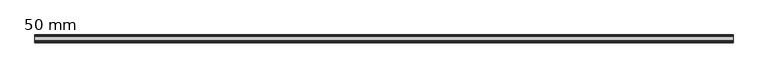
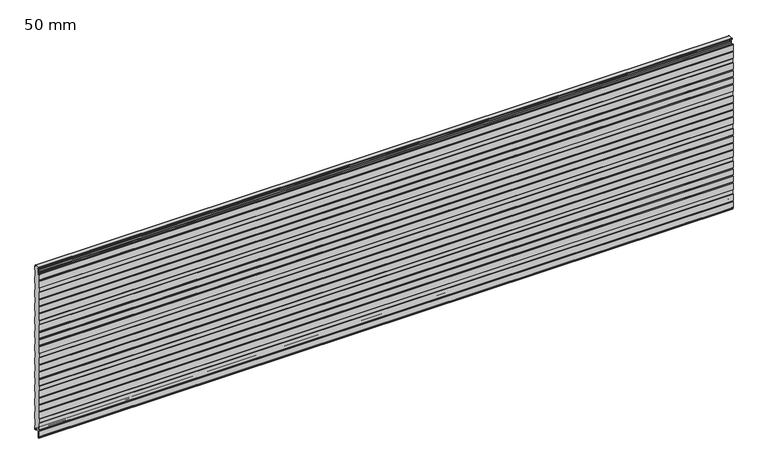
"""IFC4 building model written with IfcOpenShell, lengths in millimetres: plate geometry, HIANSA PANEL - H20.F02.002-PANELES DE FACHADA HORIZONTAL - PANEL PERFILADO - Panel de Muro Cortina : 50 mm."""

from ifc_helpers import new_model, si_unit, frame, origin, place, context, project, spatial, polyline, circle_curve, source, transform, mapped, element, save
from ifc_brep_helpers import plane_surface, cylinder_surface, revolved_surface, advanced_brep


def plate_50_mm_d58d4b2a(model_context):
    return source(origin(), model_context, "Body", "AdvancedBrep", [
        advanced_brep(
        [(-2200.0, -48.8752798, 1088.9050598), (-2200.0, -47.5170803, 1089.9655099), (-2200.0, -44.8776596, 1089.9655099), (-2200.0, -44.8776596, 1080.8), (-2200.0, -43.3776596, 1079.3), (-2200.0, -39.1276596, 1079.3), (-2200.0, -37.6276596, 1080.8), (-2200.0, -37.6276596, 1082.4013031), (-2200.0, -36.9880243, 1083.6300312), (-2200.0, -30.9305067, 1087.8715506), (-2200.0, -30.0776596, 1089.5098547), (-2200.0, -30.0776596, 1098.6062275), (-2200.0, -29.3889845, 1099.7990478), (-2200.0, -29.3889845, 1100.7990478), (-2200.0, -30.0776596, 1101.9918681), (-2200.0, -30.0776596, 1111.0896684), (-2200.0, -30.9305067, 1112.7279725), (-2200.0, -36.9880243, 1116.969492), (-2200.0, -37.6276596, 1118.19822), (-2200.0, -37.6276596, 1121.5805697), (-2200.0, -36.1276596, 1123.0805697), (-2200.0, -7.7494039, 1123.0810465), (-2200.0, -6.7486887, 1122.0803313), (-2200.0, -6.7486887, 1115.9337883), (-2200.0, -4.7472517, 1113.9323514), (-2200.0, -1.4941037, 1113.9323514), (-2200.0, -0.5, 1112.9382477), (-2200.0, -0.5, 1088.0627766), (-2200.0, -1.5005169, 1085.0504228), (-2200.0, -1.5005169, 1044.8881451), (-2200.0, -0.5, 1041.8865945), (-2200.0, -0.5, 997.0519734), (-2200.0, -1.5005169, 994.0504228), (-2200.0, -1.5005169, 953.8881451), (-2200.0, -0.5, 950.8865945), (-2200.0, -0.5, 906.0519734), (-2200.0, -1.5005169, 903.0504228), (-2200.0, -1.5005169, 862.8881451), (-2200.0, -0.5, 859.8865945), (-2200.0, -0.5, 815.0519734), (-2200.0, -1.5005169, 812.0504228), (-2200.0, -1.5005169, 771.8881451), (-2200.0, -0.5, 768.8865945), (-2200.0, -0.5, 724.0519734), (-2200.0, -1.5005169, 721.0504228), (-2200.0, -1.5005169, 680.8881451), (-2200.0, -0.5, 677.8865945), (-2200.0, -0.5, 633.0519734), (-2200.0, -1.5005169, 630.0504228), (-2200.0, -1.5005169, 589.8881451), (-2200.0, -0.5, 586.8865945), (-2200.0, -0.5, 542.0519734), (-2200.0, -1.5005169, 539.0504228), (-2200.0, -1.5005169, 498.8881451), (-2200.0, -0.5, 495.8865945), (-2200.0, -0.5, 451.0519734), (-2200.0, -1.5005169, 448.0504228), (-2200.0, -1.5005169, 407.8881451), (-2200.0, -0.5, 404.8865945), (-2200.0, -0.5, 360.0519734), (-2200.0, -1.5005169, 357.0504228), (-2200.0, -1.5005169, 316.8881451), (-2200.0, -0.5, 313.8865945), (-2200.0, -0.5, 269.0519734), (-2200.0, -1.5005169, 266.0504228), (-2200.0, -1.5005169, 225.8881451), (-2200.0, -0.5, 222.8865945), (-2200.0, -0.5, 178.0519734), (-2200.0, -1.5005169, 175.0504228), (-2200.0, -1.5005169, 134.8881451), (-2200.0, -0.5, 131.8865945), (-2200.0, -0.5, 87.0519734), (-2200.0, -1.5005169, 84.0504228), (-2200.0, -1.5005169, 43.8881451), (-2200.0, -0.5, 40.8962672), (-2200.0, -0.5, 15.9680961), (-2200.0, -1.5000258, 14.9680403), (-2200.0, -4.4999967, 14.9677262), (-2200.0, -5.5000043, 15.9677319), (-2200.0, -5.5004096, 23.5818123), (-2200.0, -7.5396439, 25.6210465), (-2200.0, -36.3470846, 25.6210465), (-2200.0, -38.8839497, 23.0841814), (-2200.0, -38.8839497, -19.2), (-2200.0, -43.6276596, -19.2), (-2200.0, -43.6276596, -10.5344901), (-2200.0, -45.1276596, -9.0344901), (-2200.0, -47.5178943, -9.0344901), (-2200.0, -48.8750825, -7.9748295), (-2200.0, -49.5, -5.4751593), (-2200.0, -49.5, 33.6239573), (-2200.0, -48.4846118, 37.6855101), (-2200.0, -49.5, 41.7470629), (-2200.0, -49.5, 84.8265935), (-2200.0, -48.5, 87.8265935), (-2200.0, -48.5, 113.1008712), (-2200.0, -49.5, 116.1008712), (-2200.0, -49.5, 159.1804017), (-2200.0, -48.4846118, 163.2419545), (-2200.0, -49.5, 167.3035073), (-2200.0, -49.5, 206.4026239), (-2200.0, -48.4846118, 210.4641767), (-2200.0, -49.5, 214.5257295), (-2200.0, -49.5, 253.6248461), (-2200.0, -48.4846118, 257.6863989), (-2200.0, -49.5, 261.7479517), (-2200.0, -49.5, 304.8274823), (-2200.0, -48.5, 307.8274823), (-2200.0, -48.5, 333.10176), (-2200.0, -49.5, 336.10176), (-2200.0, -49.5, 379.1812905), (-2200.0, -48.4846118, 383.2428433), (-2200.0, -49.5, 387.3043961), (-2200.0, -49.5, 426.4035127), (-2200.0, -48.4846118, 430.4650655), (-2200.0, -49.5, 434.5266183), (-2200.0, -49.5, 473.6257349), (-2200.0, -48.4846118, 477.6872877), (-2200.0, -49.5, 481.7488405), (-2200.0, -49.5, 524.8283711), (-2200.0, -48.5, 527.8283711), (-2200.0, -48.5, 553.1026488), (-2200.0, -49.5, 556.1026488), (-2200.0, -49.5, 599.1821793), (-2200.0, -48.4846118, 603.2437321), (-2200.0, -49.5, 607.3052849), (-2200.0, -49.5, 646.4044015), (-2200.0, -48.4846118, 650.4659543), (-2200.0, -49.5, 654.5275071), (-2200.0, -49.5, 693.6266237), (-2200.0, -48.4846118, 697.6881765), (-2200.0, -49.5, 701.7497293), (-2200.0, -49.5, 744.8292599), (-2200.0, -48.5, 747.8292599), (-2200.0, -48.5, 773.1035376), (-2200.0, -49.5, 776.1035376), (-2200.0, -49.5, 819.1830681), (-2200.0, -48.4846118, 823.2446209), (-2200.0, -49.5, 827.3061737), (-2200.0, -49.5, 866.4052903), (-2200.0, -48.4846118, 870.4668431), (-2200.0, -49.5, 874.5283959), (-2200.0, -49.5, 913.6275125), (-2200.0, -48.4846118, 917.6890653), (-2200.0, -49.5, 921.7506181), (-2200.0, -49.5, 964.8301487), (-2200.0, -48.5, 967.8301487), (-2200.0, -48.5, 993.1044264), (-2200.0, -49.5, 996.1044264), (-2200.0, -49.5, 1039.1839569), (-2200.0, -48.4846118, 1043.2455097), (-2200.0, -49.5, 1047.3070625), (-2200.0, -49.5, 1086.4061791), (2200.0, -48.8752798, 1088.9050598), (2200.0, -49.5, 1086.4061791), (2200.0, -49.5, 1047.3070625), (2200.0, -48.4846118, 1043.2455097), (2200.0, -49.5, 1039.1839569), (2200.0, -49.5, 996.1044264), (2200.0, -48.5, 993.1044264), (2200.0, -48.5, 967.8301487), (2200.0, -49.5, 964.8301487), (2200.0, -49.5, 921.7506181), (2200.0, -48.4846118, 917.6890653), (2200.0, -49.5, 913.6275125), (2200.0, -49.5, 874.5283959), (2200.0, -48.4846118, 870.4668431), (2200.0, -49.5, 866.4052903), (2200.0, -49.5, 827.3061737), (2200.0, -48.4846118, 823.2446209), (2200.0, -49.5, 819.1830681), (2200.0, -49.5, 776.1035376), (2200.0, -48.5, 773.1035376), (2200.0, -48.5, 747.8292599), (2200.0, -49.5, 744.8292599), (2200.0, -49.5, 701.7497293), (2200.0, -48.4846118, 697.6881765), (2200.0, -49.5, 693.6266237), (2200.0, -49.5, 654.5275071), (2200.0, -48.4846118, 650.4659543), (2200.0, -49.5, 646.4044015), (2200.0, -49.5, 607.3052849), (2200.0, -48.4846118, 603.2437321), (2200.0, -49.5, 599.1821793), (2200.0, -49.5, 556.1026488), (2200.0, -48.5, 553.1026488), (2200.0, -48.5, 527.8283711), (2200.0, -49.5, 524.8283711), (2200.0, -49.5, 481.7488405), (2200.0, -48.4846118, 477.6872877), (2200.0, -49.5, 473.6257349), (2200.0, -49.5, 434.5266183), (2200.0, -48.4846118, 430.4650655), (2200.0, -49.5, 426.4035127), (2200.0, -49.5, 387.3043961), (2200.0, -48.4846118, 383.2428433), (2200.0, -49.5, 379.1812905), (2200.0, -49.5, 336.10176), (2200.0, -48.5, 333.10176), (2200.0, -48.5, 307.8274823), (2200.0, -49.5, 304.8274823), (2200.0, -49.5, 261.7479517), (2200.0, -48.4846118, 257.6863989), (2200.0, -49.5, 253.6248461), (2200.0, -49.5, 214.5257295), (2200.0, -48.4846118, 210.4641767), (2200.0, -49.5, 206.4026239), (2200.0, -49.5, 167.3035073), (2200.0, -48.4846118, 163.2419545), (2200.0, -49.5, 159.1804017), (2200.0, -49.5, 116.1008712), (2200.0, -48.5, 113.1008712), (2200.0, -48.5, 87.8265935), (2200.0, -49.5, 84.8265935), (2200.0, -49.5, 41.7470629), (2200.0, -48.4846118, 37.6855101), (2200.0, -49.5, 33.6239573), (2200.0, -49.5, -5.4751593), (2200.0, -48.8750825, -7.9748295), (2200.0, -47.5178943, -9.0344901), (2200.0, -45.1276596, -9.0344901), (2200.0, -43.6276596, -10.5344901), (2200.0, -43.6276596, -19.2), (2200.0, -38.8839497, -19.2), (2200.0, -38.8839497, 23.0841814), (2200.0, -36.3470846, 25.6210465), (2200.0, -7.5396439, 25.6210465), (2200.0, -5.5004096, 23.5818123), (2200.0, -5.5004096, 15.9677319), (2200.0, -4.4999967, 14.9677262), (2200.0, -1.5000258, 14.9680403), (2200.0, -0.5, 15.9680961), (2200.0, -0.5, 40.8962672), (2200.0, -1.5005169, 43.8881451), (2200.0, -1.5005169, 84.0504228), (2200.0, -0.5, 87.0519734), (2200.0, -0.5, 131.8865945), (2200.0, -1.5005169, 134.8881451), (2200.0, -1.5005169, 175.0504228), (2200.0, -0.5, 178.0519734), (2200.0, -0.5, 222.8865945), (2200.0, -1.5005169, 225.8881451), (2200.0, -1.5005169, 266.0504228), (2200.0, -0.5, 269.0519734), (2200.0, -0.5, 313.8865945), (2200.0, -1.5005169, 316.8881451), (2200.0, -1.5005169, 357.0504228), (2200.0, -0.5, 360.0519734), (2200.0, -0.5, 404.8865945), (2200.0, -1.5005169, 407.8881451), (2200.0, -1.5005169, 448.0504228), (2200.0, -0.5, 451.0519734), (2200.0, -0.5, 495.8865945), (2200.0, -1.5005169, 498.8881451), (2200.0, -1.5005169, 539.0504228), (2200.0, -0.5, 542.0519734), (2200.0, -0.5, 586.8865945), (2200.0, -1.5005169, 589.8881451), (2200.0, -1.5005169, 630.0504228), (2200.0, -0.5, 633.0519734), (2200.0, -0.5, 677.8865945), (2200.0, -1.5005169, 680.8881451), (2200.0, -1.5005169, 721.0504228), (2200.0, -0.5, 724.0519734), (2200.0, -0.5, 768.8865945), (2200.0, -1.5005169, 771.8881451), (2200.0, -1.5005169, 812.0504228), (2200.0, -0.5, 815.0519734), (2200.0, -0.5, 859.8865945), (2200.0, -1.5005169, 862.8881451), (2200.0, -1.5005169, 903.0504228), (2200.0, -0.5, 906.0519734), (2200.0, -0.5, 950.8865945), (2200.0, -1.5005169, 953.8881451), (2200.0, -1.5005169, 994.0504228), (2200.0, -0.5, 997.0519734), (2200.0, -0.5, 1041.8865945), (2200.0, -1.5005169, 1044.8881451), (2200.0, -1.5005169, 1085.0504228), (2200.0, -0.5, 1088.0627766), (2200.0, -0.5, 1112.9382477), (2200.0, -1.4941037, 1113.9323514), (2200.0, -4.7472517, 1113.9323514), (2200.0, -6.7486887, 1115.9337883), (2200.0, -6.7486887, 1122.0803313), (2200.0, -7.7494039, 1123.0810465), (2200.0, -36.1276596, 1123.0810465), (2200.0, -37.6276596, 1121.5805697), (2200.0, -37.6276596, 1118.19822), (2200.0, -36.9880243, 1116.969492), (2200.0, -30.9305067, 1112.7279725), (2200.0, -30.0776596, 1111.0896684), (2200.0, -30.0776596, 1101.9918681), (2200.0, -29.3889845, 1100.7990478), (2200.0, -29.3889845, 1099.7990478), (2200.0, -30.0776596, 1098.6062275), (2200.0, -30.0776596, 1089.5098547), (2200.0, -30.9305067, 1087.8715506), (2200.0, -36.9880243, 1083.6300312), (2200.0, -37.6276596, 1082.4013031), (2200.0, -37.6276596, 1080.8), (2200.0, -39.1276596, 1079.3), (2200.0, -43.3776596, 1079.3), (2200.0, -44.8776596, 1080.8), (2200.0, -44.8776596, 1089.9655099), (2200.0, -47.5170803, 1089.9655099)],
        [
            (0, 1, circle_curve(frame((-2200.0, -47.5170803, 1088.5655099), z_axis=(-1.0, 0.0, 0.0), x_axis=(0.0, 0.0, 1.0)), 1.4)),
            (1, 2),
            (2, 3),
            (3, 4, circle_curve(frame((-2200.0, -43.3776596, 1080.8), z_axis=(1.0, 0.0, 0.0), x_axis=(0.0, 0.0, 1.0)), 1.5)),
            (4, 5),
            (5, 6, circle_curve(frame((-2200.0, -39.1276596, 1080.8), z_axis=(1.0, 0.0, 0.0), x_axis=(0.0, 0.0, 1.0)), 1.5)),
            (6, 7),
            (7, 8, circle_curve(frame((-2200.0, -36.1276596, 1082.4013031), z_axis=(-1.0, 0.0, 0.0), x_axis=(0.0, 0.0, 1.0)), 1.5)),
            (8, 9),
            (9, 10, circle_curve(frame((-2200.0, -32.0776596, 1089.5098547), z_axis=(1.0, 0.0, 0.0), x_axis=(0.0, 0.0, 1.0)), 2.0)),
            (10, 11),
            (11, 12),
            (12, 13, circle_curve(frame((-2200.0, -30.2550099, 1100.2990478), z_axis=(1.0, 0.0, 0.0), x_axis=(0.0, 0.0, 1.0)), 1.0)),
            (13, 14),
            (14, 15),
            (15, 16, circle_curve(frame((-2200.0, -32.0776596, 1111.0896684), z_axis=(1.0, 0.0, 0.0), x_axis=(0.0, 0.0, 1.0)), 2.0)),
            (16, 17),
            (17, 18, circle_curve(frame((-2200.0, -36.1276596, 1118.19822), z_axis=(-1.0, 0.0, 0.0), x_axis=(0.0, 0.0, 1.0)), 1.5)),
            (18, 19),
            (19, 20, circle_curve(frame((-2200.0, -36.1276596, 1121.5805697), z_axis=(-1.0, 0.0, 0.0), x_axis=(0.0, 0.0, 1.0)), 1.5)),
            (20, 21),
            (21, 22, circle_curve(frame((-2200.0, -7.7494039, 1122.0803313), z_axis=(-1.0, 0.0, 0.0), x_axis=(0.0, 0.0, 1.0)), 1.0007153)),
            (22, 23),
            (23, 24, circle_curve(frame((-2200.0, -4.7472517, 1115.9337883), z_axis=(1.0, 0.0, 0.0), x_axis=(0.0, 0.0, 1.0)), 2.0014369)),
            (24, 25),
            (25, 26, circle_curve(frame((-2200.0, -1.4941037, 1112.9382477), z_axis=(-1.0, 0.0, 0.0), x_axis=(0.0, 0.0, 1.0)), 0.9941037)),
            (26, 27),
            (27, 28),
            (28, 29),
            (29, 30),
            (30, 31),
            (31, 32),
            (32, 33),
            (33, 34),
            (34, 35),
            (35, 36),
            (36, 37),
            (37, 38),
            (38, 39),
            (39, 40),
            (40, 41),
            (41, 42),
            (42, 43),
            (43, 44),
            (44, 45),
            (45, 46),
            (46, 47),
            (47, 48),
            (48, 49),
            (49, 50),
            (50, 51),
            (51, 52),
            (52, 53),
            (53, 54),
            (54, 55),
            (55, 56),
            (56, 57),
            (57, 58),
            (58, 59),
            (59, 60),
            (60, 61),
            (61, 62),
            (62, 63),
            (63, 64),
            (64, 65),
            (65, 66),
            (66, 67),
            (67, 68),
            (68, 69),
            (69, 70),
            (70, 71),
            (71, 72),
            (72, 73),
            (73, 74),
            (74, 75),
            (75, 76, circle_curve(frame((-2200.0, -1.5000558, 15.9680961), z_axis=(-1.0, 0.0, 0.0), x_axis=(0.0, 0.0, 1.0)), 1.0000558)),
            (76, 77),
            (77, 78, circle_curve(frame((-2200.0, -4.4999986, 15.9677319), z_axis=(-1.0, 0.0, 0.0), x_axis=(0.0, 0.0, 1.0)), 1.0000057)),
            (78, 79),
            (79, 80, circle_curve(frame((-2200.0, -7.5396439, 23.5818123), z_axis=(1.0, 0.0, 0.0), x_axis=(0.0, 0.0, 1.0)), 2.0392343)),
            (80, 81),
            (81, 82, circle_curve(frame((-2200.0, -36.3470846, 23.0841814), z_axis=(1.0, 0.0, 0.0), x_axis=(0.0, 0.0, 1.0)), 2.5368651)),
            (82, 83),
            (83, 84),
            (84, 85),
            (85, 86, circle_curve(frame((-2200.0, -45.1276596, -10.5344901), z_axis=(1.0, 0.0, 0.0), x_axis=(0.0, 0.0, 1.0)), 1.5)),
            (86, 87),
            (87, 88, circle_curve(frame((-2200.0, -47.5178943, -7.6355325), z_axis=(-1.0, 0.0, 0.0), x_axis=(0.0, 0.0, 1.0)), 1.3989576)),
            (88, 89),
            (89, 90),
            (90, 91),
            (91, 92),
            (92, 93),
            (93, 94),
            (94, 95),
            (95, 96),
            (96, 97),
            (97, 98),
            (98, 99),
            (99, 100),
            (100, 101),
            (101, 102),
            (102, 103),
            (103, 104),
            (104, 105),
            (105, 106),
            (106, 107),
            (107, 108),
            (108, 109),
            (109, 110),
            (110, 111),
            (111, 112),
            (112, 113),
            (113, 114),
            (114, 115),
            (115, 116),
            (116, 117),
            (117, 118),
            (118, 119),
            (119, 120),
            (120, 121),
            (121, 122),
            (122, 123),
            (123, 124),
            (124, 125),
            (125, 126),
            (126, 127),
            (127, 128),
            (128, 129),
            (129, 130),
            (130, 131),
            (131, 132),
            (132, 133),
            (133, 134),
            (134, 135),
            (135, 136),
            (136, 137),
            (137, 138),
            (138, 139),
            (139, 140),
            (140, 141),
            (141, 142),
            (142, 143),
            (143, 144),
            (144, 145),
            (145, 146),
            (146, 147),
            (147, 148),
            (148, 149),
            (149, 150),
            (150, 151),
            (151, 152),
            (152, 0),
            (153, 154),
            (154, 155),
            (155, 156),
            (156, 157),
            (157, 158),
            (158, 159),
            (159, 160),
            (160, 161),
            (161, 162),
            (162, 163),
            (163, 164),
            (164, 165),
            (165, 166),
            (166, 167),
            (167, 168),
            (168, 169),
            (169, 170),
            (170, 171),
            (171, 172),
            (172, 173),
            (173, 174),
            (174, 175),
            (175, 176),
            (176, 177),
            (177, 178),
            (178, 179),
            (179, 180),
            (180, 181),
            (181, 182),
            (182, 183),
            (183, 184),
            (184, 185),
            (185, 186),
            (186, 187),
            (187, 188),
            (188, 189),
            (189, 190),
            (190, 191),
            (191, 192),
            (192, 193),
            (193, 194),
            (194, 195),
            (195, 196),
            (196, 197),
            (197, 198),
            (198, 199),
            (199, 200),
            (200, 201),
            (201, 202),
            (202, 203),
            (203, 204),
            (204, 205),
            (205, 206),
            (206, 207),
            (207, 208),
            (208, 209),
            (209, 210),
            (210, 211),
            (211, 212),
            (212, 213),
            (213, 214),
            (214, 215),
            (215, 216),
            (216, 217),
            (217, 218),
            (218, 219, circle_curve(frame((2200.0, -47.5178943, -7.6355325), z_axis=(1.0, 0.0, 0.0), x_axis=(0.0, 0.0, 1.0)), 1.3989576)),
            (219, 220),
            (220, 221, circle_curve(frame((2200.0, -45.1276596, -10.5344901), z_axis=(-1.0, 0.0, 0.0), x_axis=(0.0, 0.0, 1.0)), 1.5)),
            (221, 222),
            (222, 223),
            (223, 224),
            (224, 225, circle_curve(frame((2200.0, -36.3470846, 23.0841814), z_axis=(-1.0, 0.0, 0.0), x_axis=(0.0, 0.0, 1.0)), 2.5368651)),
            (225, 226),
            (226, 227, circle_curve(frame((2200.0, -7.5396439, 23.5818123), z_axis=(-1.0, 0.0, 0.0), x_axis=(0.0, 0.0, 1.0)), 2.0392343)),
            (227, 228),
            (228, 229, circle_curve(frame((2200.0, -4.4999986, 15.9677319), z_axis=(1.0, 0.0, 0.0), x_axis=(0.0, 0.0, 1.0)), 1.0000057)),
            (229, 230),
            (230, 231, circle_curve(frame((2200.0, -1.5000558, 15.9680961), z_axis=(1.0, 0.0, 0.0), x_axis=(0.0, 0.0, 1.0)), 1.0000558)),
            (231, 232),
            (232, 233),
            (233, 234),
            (234, 235),
            (235, 236),
            (236, 237),
            (237, 238),
            (238, 239),
            (239, 240),
            (240, 241),
            (241, 242),
            (242, 243),
            (243, 244),
            (244, 245),
            (245, 246),
            (246, 247),
            (247, 248),
            (248, 249),
            (249, 250),
            (250, 251),
            (251, 252),
            (252, 253),
            (253, 254),
            (254, 255),
            (255, 256),
            (256, 257),
            (257, 258),
            (258, 259),
            (259, 260),
            (260, 261),
            (261, 262),
            (262, 263),
            (263, 264),
            (264, 265),
            (265, 266),
            (266, 267),
            (267, 268),
            (268, 269),
            (269, 270),
            (270, 271),
            (271, 272),
            (272, 273),
            (273, 274),
            (274, 275),
            (275, 276),
            (276, 277),
            (277, 278),
            (278, 279),
            (279, 280),
            (280, 281, circle_curve(frame((2200.0, -1.4941037, 1112.9382477), z_axis=(1.0, 0.0, 0.0), x_axis=(0.0, 0.0, 1.0)), 0.9941037)),
            (281, 282),
            (282, 283, circle_curve(frame((2200.0, -4.7472517, 1115.9337883), z_axis=(-1.0, 0.0, 0.0), x_axis=(0.0, 0.0, 1.0)), 2.0014369)),
            (283, 284),
            (284, 285, circle_curve(frame((2200.0, -7.7494039, 1122.0803313), z_axis=(1.0, 0.0, 0.0), x_axis=(0.0, 0.0, 1.0)), 1.0007153)),
            (285, 286),
            (286, 287, circle_curve(frame((2200.0, -36.1276596, 1121.5805697), z_axis=(1.0, 0.0, 0.0), x_axis=(0.0, 0.0, 1.0)), 1.5)),
            (287, 288),
            (288, 289, circle_curve(frame((2200.0, -36.1276596, 1118.19822), z_axis=(1.0, 0.0, 0.0), x_axis=(0.0, 0.0, 1.0)), 1.5)),
            (289, 290),
            (290, 291, circle_curve(frame((2200.0, -32.0776596, 1111.0896684), z_axis=(-1.0, 0.0, 0.0), x_axis=(0.0, 0.0, 1.0)), 2.0)),
            (291, 292),
            (292, 293),
            (293, 294, circle_curve(frame((2200.0, -30.2550099, 1100.2990478), z_axis=(-1.0, 0.0, 0.0), x_axis=(0.0, 0.0, 1.0)), 1.0)),
            (294, 295),
            (295, 296),
            (296, 297, circle_curve(frame((2200.0, -32.0776596, 1089.5098547), z_axis=(-1.0, 0.0, 0.0), x_axis=(0.0, 0.0, 1.0)), 2.0)),
            (297, 298),
            (298, 299, circle_curve(frame((2200.0, -36.1276596, 1082.4013031), z_axis=(1.0, 0.0, 0.0), x_axis=(0.0, 0.0, 1.0)), 1.5)),
            (299, 300),
            (300, 301, circle_curve(frame((2200.0, -39.1276596, 1080.8), z_axis=(-1.0, 0.0, 0.0), x_axis=(0.0, 0.0, 1.0)), 1.5)),
            (301, 302),
            (302, 303, circle_curve(frame((2200.0, -43.3776596, 1080.8), z_axis=(-1.0, 0.0, 0.0), x_axis=(0.0, 0.0, 1.0)), 1.5)),
            (303, 304),
            (304, 305),
            (305, 153, circle_curve(frame((2200.0, -47.5170803, 1088.5655099), z_axis=(1.0, 0.0, 0.0), x_axis=(0.0, 0.0, 1.0)), 1.4)),
            (147, 159),
            (158, 148),
            (146, 160),
            (145, 161),
            (144, 162),
            (143, 163),
            (142, 164),
            (141, 165),
            (140, 166),
            (139, 167),
            (138, 168),
            (137, 169),
            (136, 170),
            (135, 171),
            (134, 172),
            (133, 173),
            (132, 174),
            (131, 175),
            (130, 176),
            (129, 177),
            (128, 178),
            (127, 179),
            (126, 180),
            (125, 181),
            (124, 182),
            (123, 183),
            (122, 184),
            (121, 185),
            (120, 186),
            (119, 187),
            (118, 188),
            (117, 189),
            (116, 190),
            (115, 191),
            (114, 192),
            (113, 193),
            (112, 194),
            (111, 195),
            (110, 196),
            (109, 197),
            (108, 198),
            (107, 199),
            (106, 200),
            (105, 201),
            (104, 202),
            (103, 203),
            (102, 204),
            (101, 205),
            (100, 206),
            (99, 207),
            (98, 208),
            (97, 209),
            (96, 210),
            (95, 211),
            (94, 212),
            (93, 213),
            (92, 214),
            (91, 215),
            (90, 216),
            (89, 217),
            (88, 218),
            (87, 219),
            (86, 220),
            (85, 221),
            (84, 222),
            (83, 223),
            (82, 224),
            (81, 225),
            (80, 226),
            (79, 227),
            (78, 228),
            (74, 232),
            (231, 75),
            (73, 233),
            (72, 234),
            (71, 235),
            (70, 236),
            (69, 237),
            (68, 238),
            (67, 239),
            (66, 240),
            (65, 241),
            (64, 242),
            (63, 243),
            (62, 244),
            (61, 245),
            (60, 246),
            (59, 247),
            (58, 248),
            (57, 249),
            (56, 250),
            (55, 251),
            (54, 252),
            (53, 253),
            (52, 254),
            (51, 255),
            (50, 256),
            (49, 257),
            (48, 258),
            (47, 259),
            (46, 260),
            (45, 261),
            (44, 262),
            (43, 263),
            (42, 264),
            (41, 265),
            (40, 266),
            (39, 267),
            (38, 268),
            (37, 269),
            (36, 270),
            (35, 271),
            (34, 272),
            (33, 273),
            (32, 274),
            (31, 275),
            (30, 276),
            (152, 154),
            (153, 0),
            (151, 155),
            (150, 156),
            (149, 157),
            (29, 277),
            (28, 278),
            (27, 279),
            (26, 280),
            (25, 281),
            (24, 282),
            (23, 283),
            (22, 284),
            (21, 285),
            (20, 286),
            (19, 287),
            (18, 288),
            (17, 289),
            (16, 290),
            (15, 291),
            (9, 297),
            (296, 10),
            (8, 298),
            (7, 299),
            (6, 300),
            (5, 301),
            (4, 302),
            (3, 303),
            (2, 304),
            (1, 305),
            (14, 292),
            (13, 293),
            (12, 294),
            (11, 295),
            (77, 229),
            (76, 230),
        ],
        [
            plane_surface(frame((-2200.0, 0.0, 0.0), z_axis=(-1.0, 0.0, 0.0), x_axis=(0.0, 0.0, 1.0))),
            plane_surface(frame((2200.0, 0.0, 0.0), z_axis=(1.0, 0.0, 0.0), x_axis=(0.0, 0.0, 1.0))),
            plane_surface(frame((-2200.0, -49.5, 996.1044264), z_axis=(0.0, -0.9486832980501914, -0.31622776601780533), x_axis=(1.0, 0.0, 0.0))),
            plane_surface(frame((-2200.0, -48.5, 993.1044264), z_axis=(0.0, -1.0, 0.0), x_axis=(1.0, 0.0, 0.0))),
            plane_surface(frame((-2200.0, -48.5, 967.8301487), z_axis=(0.0, -0.948683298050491, 0.3162277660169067), x_axis=(1.0, 0.0, 0.0))),
            plane_surface(frame((-2200.0, -49.5, 964.8301487), z_axis=(0.0, -1.0, 0.0), x_axis=(1.0, 0.0, 0.0))),
            plane_surface(frame((-2200.0, -49.5, 921.7506181), z_axis=(0.0, -0.9701425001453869, -0.24253562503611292), x_axis=(1.0, 0.0, 0.0))),
            plane_surface(frame((-2200.0, -48.4846118, 917.6890653), z_axis=(0.0, -0.9701425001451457, 0.24253562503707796), x_axis=(1.0, 0.0, 0.0))),
            plane_surface(frame((-2200.0, -49.5, 913.6275125), z_axis=(0.0, -1.0, 0.0), x_axis=(1.0, 0.0, 0.0))),
            plane_surface(frame((-2200.0, -49.5, 874.5283959), z_axis=(0.0, -0.9701425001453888, -0.2425356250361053), x_axis=(1.0, 0.0, 0.0))),
            plane_surface(frame((-2200.0, -48.4846118, 870.4668431), z_axis=(0.0, -0.9701425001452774, 0.24253562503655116), x_axis=(1.0, 0.0, 0.0))),
            plane_surface(frame((-2200.0, -49.5, 866.4052903), z_axis=(0.0, -1.0, 0.0), x_axis=(1.0, 0.0, 0.0))),
            plane_surface(frame((-2200.0, -49.5, 827.3061737), z_axis=(0.0, -0.9701425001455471, -0.242535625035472), x_axis=(1.0, 0.0, 0.0))),
            plane_surface(frame((-2200.0, -48.4846118, 823.2446209), z_axis=(0.0, -0.9701425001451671, 0.2425356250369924), x_axis=(1.0, 0.0, 0.0))),
            plane_surface(frame((-2200.0, -49.5, 819.1830681), z_axis=(0.0, -1.0, 0.0), x_axis=(1.0, 0.0, 0.0))),
            plane_surface(frame((-2200.0, -49.5, 776.1035376), z_axis=(0.0, -0.9486832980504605, -0.3162277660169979), x_axis=(1.0, 0.0, 0.0))),
            plane_surface(frame((-2200.0, -48.5, 773.1035376), z_axis=(0.0, -1.0, 0.0), x_axis=(1.0, 0.0, 0.0))),
            plane_surface(frame((-2200.0, -48.5, 747.8292599), z_axis=(0.0, -0.9486832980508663, 0.3162277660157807), x_axis=(1.0, 0.0, 0.0))),
            plane_surface(frame((-2200.0, -49.5, 744.8292599), z_axis=(0.0, -1.0, 0.0), x_axis=(1.0, 0.0, 0.0))),
            plane_surface(frame((-2200.0, -49.5, 701.7497293), z_axis=(0.0, -0.9701425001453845, -0.24253562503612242), x_axis=(1.0, 0.0, 0.0))),
            plane_surface(frame((-2200.0, -48.4846118, 697.6881765), z_axis=(0.0, -0.9701425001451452, 0.2425356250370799), x_axis=(1.0, 0.0, 0.0))),
            plane_surface(frame((-2200.0, -49.5, 693.6266237), z_axis=(0.0, -1.0, 0.0), x_axis=(1.0, 0.0, 0.0))),
            plane_surface(frame((-2200.0, -49.5, 654.5275071), z_axis=(0.0, -0.9701425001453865, -0.2425356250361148), x_axis=(1.0, 0.0, 0.0))),
            plane_surface(frame((-2200.0, -48.4846118, 650.4659543), z_axis=(0.0, -0.9701425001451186, 0.24253562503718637), x_axis=(1.0, 0.0, 0.0))),
            plane_surface(frame((-2200.0, -49.5, 646.4044015), z_axis=(0.0, -1.0, 0.0), x_axis=(1.0, 0.0, 0.0))),
            plane_surface(frame((-2200.0, -49.5, 607.3052849), z_axis=(0.0, -0.9701425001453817, -0.24253562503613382), x_axis=(1.0, 0.0, 0.0))),
            plane_surface(frame((-2200.0, -48.4846118, 603.2437321), z_axis=(0.0, -0.9701425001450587, 0.242535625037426), x_axis=(1.0, 0.0, 0.0))),
            plane_surface(frame((-2200.0, -49.5, 599.1821793), z_axis=(0.0, -1.0, 0.0), x_axis=(1.0, 0.0, 0.0))),
            plane_surface(frame((-2200.0, -49.5, 556.1026488), z_axis=(0.0, -0.948683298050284, -0.3162277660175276), x_axis=(1.0, 0.0, 0.0))),
            plane_surface(frame((-2200.0, -48.5, 553.1026488), z_axis=(0.0, -1.0, 0.0), x_axis=(1.0, 0.0, 0.0))),
            plane_surface(frame((-2200.0, -48.5, 527.8283711), z_axis=(0.0, -0.9486832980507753, 0.31622776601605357), x_axis=(1.0, 0.0, 0.0))),
            plane_surface(frame((-2200.0, -49.5, 524.8283711), z_axis=(0.0, -1.0, 0.0), x_axis=(1.0, 0.0, 0.0))),
            plane_surface(frame((-2200.0, -49.5, 481.7488405), z_axis=(0.0, -0.9701425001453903, -0.2425356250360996), x_axis=(1.0, 0.0, 0.0))),
            plane_surface(frame((-2200.0, -48.4846118, 477.6872877), z_axis=(0.0, -0.9701425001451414, 0.24253562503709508), x_axis=(1.0, 0.0, 0.0))),
            plane_surface(frame((-2200.0, -49.5, 473.6257349), z_axis=(0.0, -1.0, 0.0), x_axis=(1.0, 0.0, 0.0))),
            plane_surface(frame((-2200.0, -49.5, 434.5266183), z_axis=(0.0, -0.9701425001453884, -0.2425356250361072), x_axis=(1.0, 0.0, 0.0))),
            plane_surface(frame((-2200.0, -48.4846118, 430.4650655), z_axis=(0.0, -0.9701425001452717, 0.24253562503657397), x_axis=(1.0, 0.0, 0.0))),
            plane_surface(frame((-2200.0, -49.5, 426.4035127), z_axis=(0.0, -1.0, 0.0), x_axis=(1.0, 0.0, 0.0))),
            plane_surface(frame((-2200.0, -49.5, 387.3043961), z_axis=(0.0, -0.9701425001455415, -0.2425356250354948), x_axis=(1.0, 0.0, 0.0))),
            plane_surface(frame((-2200.0, -48.4846118, 383.2428433), z_axis=(0.0, -0.9701425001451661, 0.2425356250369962), x_axis=(1.0, 0.0, 0.0))),
            plane_surface(frame((-2200.0, -49.5, 379.1812905), z_axis=(0.0, -1.0, 0.0), x_axis=(1.0, 0.0, 0.0))),
            plane_surface(frame((-2200.0, -49.5, 336.10176), z_axis=(0.0, -0.9486832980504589, -0.3162277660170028), x_axis=(1.0, 0.0, 0.0))),
            plane_surface(frame((-2200.0, -48.5, 333.10176), z_axis=(0.0, -1.0, 0.0), x_axis=(1.0, 0.0, 0.0))),
            plane_surface(frame((-2200.0, -48.5, 307.8274823), z_axis=(0.0, -0.9486832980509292, 0.3162277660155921), x_axis=(1.0, 0.0, 0.0))),
            plane_surface(frame((-2200.0, -49.5, 304.8274823), z_axis=(0.0, -1.0, 0.0), x_axis=(1.0, 0.0, 0.0))),
            plane_surface(frame((-2200.0, -49.5, 261.7479517), z_axis=(0.0, -0.9701425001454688, -0.2425356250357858), x_axis=(1.0, 0.0, 0.0))),
            plane_surface(frame((-2200.0, -48.4846118, 257.6863989), z_axis=(0.0, -0.9701425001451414, 0.24253562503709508), x_axis=(1.0, 0.0, 0.0))),
            plane_surface(frame((-2200.0, -49.5, 253.6248461), z_axis=(0.0, -1.0, 0.0), x_axis=(1.0, 0.0, 0.0))),
            plane_surface(frame((-2200.0, -49.5, 214.5257295), z_axis=(0.0, -0.9701425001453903, -0.2425356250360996), x_axis=(1.0, 0.0, 0.0))),
            plane_surface(frame((-2200.0, -48.4846118, 210.4641767), z_axis=(0.0, -0.9701425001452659, 0.24253562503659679), x_axis=(1.0, 0.0, 0.0))),
            plane_surface(frame((-2200.0, -49.5, 206.4026239), z_axis=(0.0, -1.0, 0.0), x_axis=(1.0, 0.0, 0.0))),
            plane_surface(frame((-2200.0, -49.5, 167.3035073), z_axis=(0.0, -0.9701425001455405, -0.2425356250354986), x_axis=(1.0, 0.0, 0.0))),
            plane_surface(frame((-2200.0, -48.4846118, 163.2419545), z_axis=(0.0, -0.9701425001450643, 0.24253562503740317), x_axis=(1.0, 0.0, 0.0))),
            plane_surface(frame((-2200.0, -49.5, 159.1804017), z_axis=(0.0, -1.0, 0.0), x_axis=(1.0, 0.0, 0.0))),
            plane_surface(frame((-2200.0, -49.5, 116.1008712), z_axis=(0.0, -0.948683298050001, -0.31622776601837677), x_axis=(1.0, 0.0, 0.0))),
            plane_surface(frame((-2200.0, -48.5, 113.1008712), z_axis=(0.0, -1.0, 0.0), x_axis=(1.0, 0.0, 0.0))),
            plane_surface(frame((-2200.0, -48.5, 87.8265935), z_axis=(0.0, -0.9486832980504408, 0.31622776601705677), x_axis=(1.0, 0.0, 0.0))),
            plane_surface(frame((-2200.0, -49.5, 84.8265935), z_axis=(0.0, -1.0, 0.0), x_axis=(1.0, 0.0, 0.0))),
            plane_surface(frame((-2200.0, -49.5, 41.7470629), z_axis=(0.0, -0.9701425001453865, -0.2425356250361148), x_axis=(1.0, 0.0, 0.0))),
            plane_surface(frame((-2200.0, -48.4846118, 37.6855101), z_axis=(0.0, -0.9701425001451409, 0.242535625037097), x_axis=(1.0, 0.0, 0.0))),
            plane_surface(frame((-2200.0, -49.5, 33.6239573), z_axis=(0.0, -1.0, 0.0), x_axis=(1.0, 0.0, 0.0))),
            plane_surface(frame((-2200.0, -49.5, -5.4751593), z_axis=(0.0, -0.9701425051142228, -0.24253560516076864), x_axis=(1.0, 0.0, 0.0))),
            cylinder_surface(frame((-2200.0, -47.5178943, -7.6355325), z_axis=(-1.0, 0.0, 0.0), x_axis=(0.0, 0.0, 1.0)), 1.3989576),
            plane_surface(frame((-2200.0, -47.5178943, -9.0344901), z_axis=(0.0, 0.0, -1.0), x_axis=(1.0, 0.0, 0.0))),
            revolved_surface(polyline([(2200.0, -45.1276596, -9.0344901), (-2200.0, -45.1276596, -9.0344901)]), (-2200.0, -45.1276596, -10.5344901), (1.0, 0.0, 0.0)),
            plane_surface(frame((-2200.0, -43.6276596, -10.5344901), z_axis=(0.0, -1.0, 0.0), x_axis=(1.0, 0.0, 0.0))),
            plane_surface(frame((-2200.0, -43.6276596, -19.2), z_axis=(0.0, 0.0, -1.0), x_axis=(1.0, 0.0, 0.0))),
            plane_surface(frame((-2200.0, -38.8839497, -19.2), z_axis=(0.0, 1.0, 0.0), x_axis=(1.0, 0.0, 0.0))),
            revolved_surface(polyline([(2200.0, -36.3470846, 25.6210465), (-2200.0, -36.3470846, 25.6210465)]), (-2200.0, -36.3470846, 23.0841814), (1.0, 0.0, 0.0)),
            plane_surface(frame((-2200.0, -36.3470846, 25.6210465), z_axis=(0.0, 0.0, -1.0), x_axis=(1.0, 0.0, 0.0))),
            revolved_surface(polyline([(2200.0, -7.5396439, 25.6210466), (-2200.0, -7.5396439, 25.6210466)]), (-2200.0, -7.5396439, 23.5818123), (1.0, 0.0, 0.0)),
            plane_surface(frame((-2200.0, -5.5004096, 23.5818123), z_axis=(0.0, -1.0, 0.0), x_axis=(1.0, 0.0, 0.0))),
            plane_surface(frame((-2200.0, -0.5, 15.9680961), z_axis=(0.0, 1.0, 0.0), x_axis=(1.0, 0.0, 0.0))),
            plane_surface(frame((-2200.0, -0.5, 40.8962672), z_axis=(0.0, 0.9483762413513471, 0.31714744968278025), x_axis=(1.0, 0.0, 0.0))),
            plane_surface(frame((-2200.0, -1.5005169, 43.8881451), z_axis=(0.0, 1.0, 0.0), x_axis=(1.0, 0.0, 0.0))),
            plane_surface(frame((-2200.0, -1.5005169, 84.0504228), z_axis=(0.0, 0.9486832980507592, -0.3162277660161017), x_axis=(1.0, 0.0, 0.0))),
            plane_surface(frame((-2200.0, -0.5, 87.0519734), z_axis=(0.0, 1.0, 0.0), x_axis=(1.0, 0.0, 0.0))),
            plane_surface(frame((-2200.0, -0.5, 131.8865945), z_axis=(0.0, 0.948683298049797, 0.3162277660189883), x_axis=(1.0, 0.0, 0.0))),
            plane_surface(frame((-2200.0, -1.5005169, 134.8881451), z_axis=(0.0, 1.0, 0.0), x_axis=(1.0, 0.0, 0.0))),
            plane_surface(frame((-2200.0, -1.5005169, 175.0504228), z_axis=(0.0, 0.9486832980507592, -0.3162277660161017), x_axis=(1.0, 0.0, 0.0))),
            plane_surface(frame((-2200.0, -0.5, 178.0519734), z_axis=(0.0, 1.0, 0.0), x_axis=(1.0, 0.0, 0.0))),
            plane_surface(frame((-2200.0, -0.5, 222.8865945), z_axis=(0.0, 0.948683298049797, 0.3162277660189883), x_axis=(1.0, 0.0, 0.0))),
            plane_surface(frame((-2200.0, -1.5005169, 225.8881451), z_axis=(0.0, 1.0, 0.0), x_axis=(1.0, 0.0, 0.0))),
            plane_surface(frame((-2200.0, -1.5005169, 266.0504228), z_axis=(0.0, 0.9486832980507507, -0.3162277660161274), x_axis=(1.0, 0.0, 0.0))),
            plane_surface(frame((-2200.0, -0.5, 269.0519734), z_axis=(0.0, 1.0, 0.0), x_axis=(1.0, 0.0, 0.0))),
            plane_surface(frame((-2200.0, -0.5, 313.8865945), z_axis=(0.0, 0.9486832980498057, 0.31622776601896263), x_axis=(1.0, 0.0, 0.0))),
            plane_surface(frame((-2200.0, -1.5005169, 316.8881451), z_axis=(0.0, 1.0, 0.0), x_axis=(1.0, 0.0, 0.0))),
            plane_surface(frame((-2200.0, -1.5005169, 357.0504228), z_axis=(0.0, 0.9486832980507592, -0.3162277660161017), x_axis=(1.0, 0.0, 0.0))),
            plane_surface(frame((-2200.0, -0.5, 360.0519734), z_axis=(0.0, 1.0, 0.0), x_axis=(1.0, 0.0, 0.0))),
            plane_surface(frame((-2200.0, -0.5, 404.8865945), z_axis=(0.0, 0.948683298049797, 0.3162277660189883), x_axis=(1.0, 0.0, 0.0))),
            plane_surface(frame((-2200.0, -1.5005169, 407.8881451), z_axis=(0.0, 1.0, 0.0), x_axis=(1.0, 0.0, 0.0))),
            plane_surface(frame((-2200.0, -1.5005169, 448.0504228), z_axis=(0.0, 0.9486832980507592, -0.3162277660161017), x_axis=(1.0, 0.0, 0.0))),
            plane_surface(frame((-2200.0, -0.5, 451.0519734), z_axis=(0.0, 1.0, 0.0), x_axis=(1.0, 0.0, 0.0))),
            plane_surface(frame((-2200.0, -0.5, 495.8865945), z_axis=(0.0, 0.9486832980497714, 0.3162277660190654), x_axis=(1.0, 0.0, 0.0))),
            plane_surface(frame((-2200.0, -1.5005169, 498.8881451), z_axis=(0.0, 1.0, 0.0), x_axis=(1.0, 0.0, 0.0))),
            plane_surface(frame((-2200.0, -1.5005169, 539.0504228), z_axis=(0.0, 0.9486832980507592, -0.3162277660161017), x_axis=(1.0, 0.0, 0.0))),
            plane_surface(frame((-2200.0, -0.5, 542.0519734), z_axis=(0.0, 1.0, 0.0), x_axis=(1.0, 0.0, 0.0))),
            plane_surface(frame((-2200.0, -0.5, 586.8865945), z_axis=(0.0, 0.9486832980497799, 0.3162277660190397), x_axis=(1.0, 0.0, 0.0))),
            plane_surface(frame((-2200.0, -1.5005169, 589.8881451), z_axis=(0.0, 1.0, 0.0), x_axis=(1.0, 0.0, 0.0))),
            plane_surface(frame((-2200.0, -1.5005169, 630.0504228), z_axis=(0.0, 0.9486832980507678, -0.316227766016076), x_axis=(1.0, 0.0, 0.0))),
            plane_surface(frame((-2200.0, -0.5, 633.0519734), z_axis=(0.0, 1.0, 0.0), x_axis=(1.0, 0.0, 0.0))),
            plane_surface(frame((-2200.0, -0.5, 677.8865945), z_axis=(0.0, 0.9486832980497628, 0.3162277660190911), x_axis=(1.0, 0.0, 0.0))),
            plane_surface(frame((-2200.0, -1.5005169, 680.8881451), z_axis=(0.0, 1.0, 0.0), x_axis=(1.0, 0.0, 0.0))),
            plane_surface(frame((-2200.0, -1.5005169, 721.0504228), z_axis=(0.0, 0.9486832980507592, -0.3162277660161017), x_axis=(1.0, 0.0, 0.0))),
            plane_surface(frame((-2200.0, -0.5, 724.0519734), z_axis=(0.0, 1.0, 0.0), x_axis=(1.0, 0.0, 0.0))),
            plane_surface(frame((-2200.0, -0.5, 768.8865945), z_axis=(0.0, 0.9486832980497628, 0.3162277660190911), x_axis=(1.0, 0.0, 0.0))),
            plane_surface(frame((-2200.0, -1.5005169, 771.8881451), z_axis=(0.0, 1.0, 0.0), x_axis=(1.0, 0.0, 0.0))),
            plane_surface(frame((-2200.0, -1.5005169, 812.0504228), z_axis=(0.0, 0.9486832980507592, -0.3162277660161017), x_axis=(1.0, 0.0, 0.0))),
            plane_surface(frame((-2200.0, -0.5, 815.0519734), z_axis=(0.0, 1.0, 0.0), x_axis=(1.0, 0.0, 0.0))),
            plane_surface(frame((-2200.0, -0.5, 859.8865945), z_axis=(0.0, 0.9486832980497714, 0.3162277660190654), x_axis=(1.0, 0.0, 0.0))),
            plane_surface(frame((-2200.0, -1.5005169, 862.8881451), z_axis=(0.0, 1.0, 0.0), x_axis=(1.0, 0.0, 0.0))),
            plane_surface(frame((-2200.0, -1.5005169, 903.0504228), z_axis=(0.0, 0.9486832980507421, -0.3162277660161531), x_axis=(1.0, 0.0, 0.0))),
            plane_surface(frame((-2200.0, -0.5, 906.0519734), z_axis=(0.0, 1.0, 0.0), x_axis=(1.0, 0.0, 0.0))),
            plane_surface(frame((-2200.0, -0.5, 950.8865945), z_axis=(0.0, 0.9486832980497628, 0.3162277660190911), x_axis=(1.0, 0.0, 0.0))),
            plane_surface(frame((-2200.0, -1.5005169, 953.8881451), z_axis=(0.0, 1.0, 0.0), x_axis=(1.0, 0.0, 0.0))),
            plane_surface(frame((-2200.0, -1.5005169, 994.0504228), z_axis=(0.0, 0.9486832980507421, -0.3162277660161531), x_axis=(1.0, 0.0, 0.0))),
            plane_surface(frame((-2200.0, -0.5, 997.0519734), z_axis=(0.0, 1.0, 0.0), x_axis=(1.0, 0.0, 0.0))),
            plane_surface(frame((-2200.0, -48.8752798, 1088.9050598), z_axis=(0.0, -0.9701425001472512, 0.24253562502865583), x_axis=(1.0, 0.0, 0.0))),
            plane_surface(frame((-2200.0, -49.5, 1086.4061791), z_axis=(0.0, -1.0, 0.0), x_axis=(1.0, 0.0, 0.0))),
            plane_surface(frame((-2200.0, -49.5, 1047.3070625), z_axis=(0.0, -0.9701425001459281, -0.2425356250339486), x_axis=(1.0, 0.0, 0.0))),
            plane_surface(frame((-2200.0, -48.4846118, 1043.2455097), z_axis=(0.0, -0.9701425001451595, 0.2425356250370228), x_axis=(1.0, 0.0, 0.0))),
            plane_surface(frame((-2200.0, -49.5, 1039.1839569), z_axis=(0.0, -1.0, 0.0), x_axis=(1.0, 0.0, 0.0))),
            plane_surface(frame((-2200.0, -0.5, 1041.8865945), z_axis=(0.0, 0.9486832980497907, 0.3162277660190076), x_axis=(1.0, 0.0, 0.0))),
            plane_surface(frame((-2200.0, -1.5005169, 1044.8881451), z_axis=(0.0, 1.0, 0.0), x_axis=(1.0, 0.0, 0.0))),
            plane_surface(frame((-2200.0, -1.5005169, 1085.0504228), z_axis=(0.0, 0.9490230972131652, -0.31520653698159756), x_axis=(1.0, 0.0, 0.0))),
            plane_surface(frame((-2200.0, -0.5, 1088.0627766), z_axis=(0.0, 1.0, 0.0), x_axis=(1.0, 0.0, 0.0))),
            cylinder_surface(frame((-2200.0, -1.4941037, 1112.9382477), z_axis=(-1.0, 0.0, 0.0), x_axis=(0.0, 0.0, 1.0)), 0.9941037),
            plane_surface(frame((-2200.0, -1.4941037, 1113.9323514), z_axis=(0.0, 0.0, 1.0), x_axis=(1.0, 0.0, 0.0))),
            revolved_surface(polyline([(2200.0, -4.7472517, 1117.9352252), (-2200.0, -4.7472517, 1117.9352252)]), (-2200.0, -4.7472517, 1115.9337883), (1.0, 0.0, 0.0)),
            plane_surface(frame((-2200.0, -6.7486887, 1115.9337883), z_axis=(0.0, 1.0, 0.0), x_axis=(1.0, 0.0, 0.0))),
            cylinder_surface(frame((-2200.0, -7.7494039, 1122.0803313), z_axis=(-1.0, 0.0, 0.0), x_axis=(0.0, 0.0, 1.0)), 1.0007153),
            plane_surface(frame((-2200.0, -7.7494039, 1123.0810465), z_axis=(0.0, 0.0, 1.0), x_axis=(1.0, 0.0, 0.0))),
            cylinder_surface(frame((-2200.0, -36.1276596, 1121.5805697), z_axis=(-1.0, 0.0, 0.0), x_axis=(0.0, 0.0, 1.0)), 1.5),
            plane_surface(frame((-2200.0, -37.6276596, 1121.5805697), z_axis=(0.0, -1.0, 0.0), x_axis=(1.0, 0.0, 0.0))),
            cylinder_surface(frame((-2200.0, -36.1276596, 1118.19822), z_axis=(-1.0, 0.0, 0.0), x_axis=(0.0, 0.0, 1.0)), 1.5),
            plane_surface(frame((-2200.0, -36.9880243, 1116.969492), z_axis=(0.0, -0.5735764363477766, -0.8191520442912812), x_axis=(1.0, 0.0, 0.0))),
            revolved_surface(polyline([(2200.0, -32.0776596, 1113.0896684), (-2200.0, -32.0776596, 1113.0896684)]), (-2200.0, -32.0776596, 1111.0896684), (1.0, 0.0, 0.0)),
            revolved_surface(polyline([(2200.0, -32.0776596, 1091.5098547), (-2200.0, -32.0776596, 1091.5098547)]), (-2200.0, -32.0776596, 1089.5098547), (1.0, 0.0, 0.0)),
            plane_surface(frame((-2200.0, -30.9305067, 1087.8715506), z_axis=(0.0, -0.5735764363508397, 0.8191520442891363), x_axis=(1.0, 0.0, 0.0))),
            cylinder_surface(frame((-2200.0, -36.1276596, 1082.4013031), z_axis=(-1.0, 0.0, 0.0), x_axis=(0.0, 0.0, 1.0)), 1.5),
            plane_surface(frame((-2200.0, -37.6276596, 1082.4013031), z_axis=(0.0, -1.0, 0.0), x_axis=(1.0, 0.0, 0.0))),
            revolved_surface(polyline([(2200.0, -39.1276596, 1082.3), (-2200.0, -39.1276596, 1082.3)]), (-2200.0, -39.1276596, 1080.8), (1.0, 0.0, 0.0)),
            plane_surface(frame((-2200.0, -39.1276596, 1079.3), z_axis=(0.0, 0.0, 1.0), x_axis=(1.0, 0.0, 0.0))),
            revolved_surface(polyline([(2200.0, -43.3776596, 1082.3), (-2200.0, -43.3776596, 1082.3)]), (-2200.0, -43.3776596, 1080.8), (1.0, 0.0, 0.0)),
            plane_surface(frame((-2200.0, -44.8776596, 1080.8), z_axis=(0.0, 1.0, 0.0), x_axis=(1.0, 0.0, 0.0))),
            plane_surface(frame((-2200.0, -44.8776596, 1089.9655099), z_axis=(0.0, 0.0, 1.0), x_axis=(1.0, 0.0, 0.0))),
            cylinder_surface(frame((-2200.0, -47.5170803, 1088.5655099), z_axis=(-1.0, 0.0, 0.0), x_axis=(0.0, 0.0, 1.0)), 1.4),
            plane_surface(frame((-2200.0, -30.0776596, 1111.0896684), z_axis=(0.0, -1.0, 0.0), x_axis=(1.0, 0.0, 0.0))),
            plane_surface(frame((-2200.0, -30.0776596, 1101.9918681), z_axis=(0.0, -0.8660254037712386, -0.5000000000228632), x_axis=(1.0, 0.0, 0.0))),
            revolved_surface(polyline([(2200.0, -30.2550099, 1101.2990478), (-2200.0, -30.2550099, 1101.2990478)]), (-2200.0, -30.2550099, 1100.2990478), (1.0, 0.0, 0.0)),
            plane_surface(frame((-2200.0, -29.3889845, 1099.7990478), z_axis=(0.0, -0.8660254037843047, 0.5000000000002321), x_axis=(1.0, 0.0, 0.0))),
            plane_surface(frame((-2200.0, -30.0776596, 1098.6062275), z_axis=(0.0, -1.0, 0.0), x_axis=(1.0, 0.0, 0.0))),
            cylinder_surface(frame((-2200.0, -4.4999986, 15.9677319), z_axis=(-1.0, 0.0, 0.0), x_axis=(0.0, 0.0, 1.0)), 1.0000057),
            plane_surface(frame((-2200.0, -4.4999967, 14.9677262), z_axis=(0.0, 0.00010468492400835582, -0.9999999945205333), x_axis=(1.0, 0.0, 0.0))),
            cylinder_surface(frame((-2200.0, -1.5000558, 15.9680961), z_axis=(-1.0, 0.0, 0.0), x_axis=(0.0, 0.0, 1.0)), 1.0000558),
        ],
        [
            (0, [[1, 2, 3, 4, 5, 6, 7, 8, 9, 10, 11, 12, 13, 14, 15, 16, 17, 18, 19, 20, 21, 22, 23, 24, 25, 26, 27, 28, 29, 30, 31, 32, 33, 34, 35, 36, 37, 38, 39, 40, 41, 42, 43, 44, 45, 46, 47, 48, 49, 50, 51, 52, 53, 54, 55, 56, 57, 58, 59, 60, 61, 62, 63, 64, 65, 66, 67, 68, 69, 70, 71, 72, 73, 74, 75, 76, 77, 78, 79, 80, 81, 82, 83, 84, 85, 86, 87, 88, 89, 90, 91, 92, 93, 94, 95, 96, 97, 98, 99, 100, 101, 102, 103, 104, 105, 106, 107, 108, 109, 110, 111, 112, 113, 114, 115, 116, 117, 118, 119, 120, 121, 122, 123, 124, 125, 126, 127, 128, 129, 130, 131, 132, 133, 134, 135, 136, 137, 138, 139, 140, 141, 142, 143, 144, 145, 146, 147, 148, 149, 150, 151, 152, 153]]),
            (1, [[154, 155, 156, 157, 158, 159, 160, 161, 162, 163, 164, 165, 166, 167, 168, 169, 170, 171, 172, 173, 174, 175, 176, 177, 178, 179, 180, 181, 182, 183, 184, 185, 186, 187, 188, 189, 190, 191, 192, 193, 194, 195, 196, 197, 198, 199, 200, 201, 202, 203, 204, 205, 206, 207, 208, 209, 210, 211, 212, 213, 214, 215, 216, 217, 218, 219, 220, 221, 222, 223, 224, 225, 226, 227, 228, 229, 230, 231, 232, 233, 234, 235, 236, 237, 238, 239, 240, 241, 242, 243, 244, 245, 246, 247, 248, 249, 250, 251, 252, 253, 254, 255, 256, 257, 258, 259, 260, 261, 262, 263, 264, 265, 266, 267, 268, 269, 270, 271, 272, 273, 274, 275, 276, 277, 278, 279, 280, 281, 282, 283, 284, 285, 286, 287, 288, 289, 290, 291, 292, 293, 294, 295, 296, 297, 298, 299, 300, 301, 302, 303, 304, 305, 306]]),
            (2, [[307, -159, 308, -148]]),
            (3, [[309, -160, -307, -147]]),
            (4, [[310, -161, -309, -146]]),
            (5, [[311, -162, -310, -145]]),
            (6, [[312, -163, -311, -144]]),
            (7, [[313, -164, -312, -143]]),
            (8, [[314, -165, -313, -142]]),
            (9, [[315, -166, -314, -141]]),
            (10, [[316, -167, -315, -140]]),
            (11, [[317, -168, -316, -139]]),
            (12, [[318, -169, -317, -138]]),
            (13, [[319, -170, -318, -137]]),
            (14, [[320, -171, -319, -136]]),
            (15, [[321, -172, -320, -135]]),
            (16, [[322, -173, -321, -134]]),
            (17, [[323, -174, -322, -133]]),
            (18, [[324, -175, -323, -132]]),
            (19, [[325, -176, -324, -131]]),
            (20, [[326, -177, -325, -130]]),
            (21, [[327, -178, -326, -129]]),
            (22, [[328, -179, -327, -128]]),
            (23, [[329, -180, -328, -127]]),
            (24, [[330, -181, -329, -126]]),
            (25, [[331, -182, -330, -125]]),
            (26, [[332, -183, -331, -124]]),
            (27, [[333, -184, -332, -123]]),
            (28, [[334, -185, -333, -122]]),
            (29, [[335, -186, -334, -121]]),
            (30, [[336, -187, -335, -120]]),
            (31, [[337, -188, -336, -119]]),
            (32, [[338, -189, -337, -118]]),
            (33, [[339, -190, -338, -117]]),
            (34, [[340, -191, -339, -116]]),
            (35, [[341, -192, -340, -115]]),
            (36, [[342, -193, -341, -114]]),
            (37, [[343, -194, -342, -113]]),
            (38, [[344, -195, -343, -112]]),
            (39, [[345, -196, -344, -111]]),
            (40, [[346, -197, -345, -110]]),
            (41, [[347, -198, -346, -109]]),
            (42, [[348, -199, -347, -108]]),
            (43, [[349, -200, -348, -107]]),
            (44, [[350, -201, -349, -106]]),
            (45, [[351, -202, -350, -105]]),
            (46, [[352, -203, -351, -104]]),
            (47, [[353, -204, -352, -103]]),
            (48, [[354, -205, -353, -102]]),
            (49, [[355, -206, -354, -101]]),
            (50, [[356, -207, -355, -100]]),
            (51, [[357, -208, -356, -99]]),
            (52, [[358, -209, -357, -98]]),
            (53, [[359, -210, -358, -97]]),
            (54, [[360, -211, -359, -96]]),
            (55, [[361, -212, -360, -95]]),
            (56, [[362, -213, -361, -94]]),
            (57, [[363, -214, -362, -93]]),
            (58, [[364, -215, -363, -92]]),
            (59, [[365, -216, -364, -91]]),
            (60, [[366, -217, -365, -90]]),
            (61, [[367, -218, -366, -89]]),
            (62, [[368, -219, -367, -88]]),
            (63, [[369, -220, -368, -87]]),
            (64, [[370, -221, -369, -86]]),
            (65, [[371, -222, -370, -85]]),
            (66, [[372, -223, -371, -84]]),
            (67, [[373, -224, -372, -83]]),
            (68, [[374, -225, -373, -82]]),
            (69, [[375, -226, -374, -81]]),
            (70, [[376, -227, -375, -80]]),
            (71, [[377, -228, -376, -79]]),
            (72, [[378, -232, 379, -75]]),
            (73, [[380, -233, -378, -74]]),
            (74, [[381, -234, -380, -73]]),
            (75, [[382, -235, -381, -72]]),
            (76, [[383, -236, -382, -71]]),
            (77, [[384, -237, -383, -70]]),
            (78, [[385, -238, -384, -69]]),
            (79, [[386, -239, -385, -68]]),
            (80, [[387, -240, -386, -67]]),
            (81, [[388, -241, -387, -66]]),
            (82, [[389, -242, -388, -65]]),
            (83, [[390, -243, -389, -64]]),
            (84, [[391, -244, -390, -63]]),
            (85, [[392, -245, -391, -62]]),
            (86, [[393, -246, -392, -61]]),
            (87, [[394, -247, -393, -60]]),
            (88, [[395, -248, -394, -59]]),
            (89, [[396, -249, -395, -58]]),
            (90, [[397, -250, -396, -57]]),
            (91, [[398, -251, -397, -56]]),
            (92, [[399, -252, -398, -55]]),
            (93, [[400, -253, -399, -54]]),
            (94, [[401, -254, -400, -53]]),
            (95, [[402, -255, -401, -52]]),
            (96, [[403, -256, -402, -51]]),
            (97, [[404, -257, -403, -50]]),
            (98, [[405, -258, -404, -49]]),
            (99, [[406, -259, -405, -48]]),
            (100, [[407, -260, -406, -47]]),
            (101, [[408, -261, -407, -46]]),
            (102, [[409, -262, -408, -45]]),
            (103, [[410, -263, -409, -44]]),
            (104, [[411, -264, -410, -43]]),
            (105, [[412, -265, -411, -42]]),
            (106, [[413, -266, -412, -41]]),
            (107, [[414, -267, -413, -40]]),
            (108, [[415, -268, -414, -39]]),
            (109, [[416, -269, -415, -38]]),
            (110, [[417, -270, -416, -37]]),
            (111, [[418, -271, -417, -36]]),
            (112, [[419, -272, -418, -35]]),
            (113, [[420, -273, -419, -34]]),
            (114, [[421, -274, -420, -33]]),
            (115, [[422, -275, -421, -32]]),
            (116, [[423, -276, -422, -31]]),
            (117, [[424, -154, 425, -153]]),
            (118, [[426, -155, -424, -152]]),
            (119, [[427, -156, -426, -151]]),
            (120, [[428, -157, -427, -150]]),
            (121, [[-308, -158, -428, -149]]),
            (122, [[429, -277, -423, -30]]),
            (123, [[430, -278, -429, -29]]),
            (124, [[431, -279, -430, -28]]),
            (125, [[432, -280, -431, -27]]),
            (126, [[433, -281, -432, -26]]),
            (127, [[434, -282, -433, -25]]),
            (128, [[435, -283, -434, -24]]),
            (129, [[436, -284, -435, -23]]),
            (130, [[437, -285, -436, -22]]),
            (131, [[438, -286, -437, -21]]),
            (132, [[439, -287, -438, -20]]),
            (133, [[440, -288, -439, -19]]),
            (134, [[441, -289, -440, -18]]),
            (135, [[442, -290, -441, -17]]),
            (136, [[443, -291, -442, -16]]),
            (137, [[444, -297, 445, -10]]),
            (138, [[446, -298, -444, -9]]),
            (139, [[447, -299, -446, -8]]),
            (140, [[448, -300, -447, -7]]),
            (141, [[449, -301, -448, -6]]),
            (142, [[450, -302, -449, -5]]),
            (143, [[451, -303, -450, -4]]),
            (144, [[452, -304, -451, -3]]),
            (145, [[453, -305, -452, -2]]),
            (146, [[-425, -306, -453, -1]]),
            (147, [[454, -292, -443, -15]]),
            (148, [[455, -293, -454, -14]]),
            (149, [[456, -294, -455, -13]]),
            (150, [[457, -295, -456, -12]]),
            (151, [[-445, -296, -457, -11]]),
            (152, [[458, -229, -377, -78]]),
            (153, [[459, -230, -458, -77]]),
            (154, [[-379, -231, -459, -76]]),
        ],
    ),
    ])


if __name__ == "__main__":
    model = new_model("IFC4")
    model_context = context("Model", 3, world=origin())
    ifc_project = project(units=[si_unit("LENGTHUNIT", "METRE", prefix="MILLI")], contexts=[model_context])
    site = spatial("IfcSite", under=ifc_project)
    building = spatial("IfcBuilding", under=site)
    placement = place(None, origin())
    plate_50_mm_shape = plate_50_mm_d58d4b2a(model_context)
    element("IfcPlate", 1, ObjectType="HIANSA PANEL - H20.F02.002-PANELES DE FACHADA HORIZONTAL - PANEL PERFILADO - Panel de Muro Cortina : 50 mm", at=placement, inside=building, context=model_context, shape_type="MappedRepresentation", body=[
        mapped(plate_50_mm_shape, transform((0.0, 0.0, 0.0), x_axis=(1.0, 0.0, 0.0), y_axis=(0.0, 1.0, 0.0), z_axis=(0.0, 0.0, 1.0))),
    ])
    save(model, "model.ifc")
